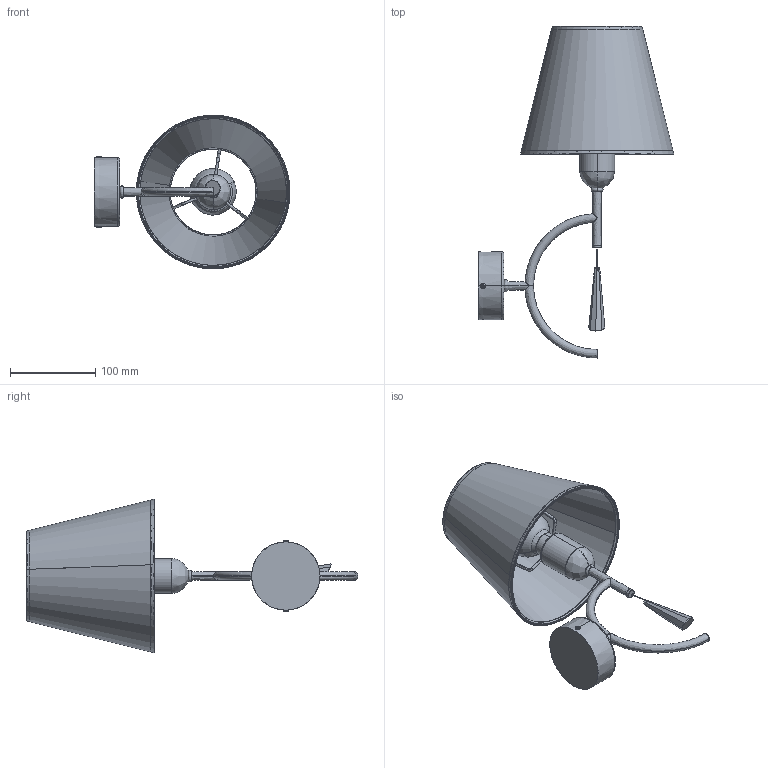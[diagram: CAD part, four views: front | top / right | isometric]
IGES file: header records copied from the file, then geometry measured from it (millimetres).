
Start section: SolidWorks IGES file using analytic representation for surfaces
Bounding box: 229.61 x 389.09 x 180.01 mm (x, y, z)
Surface area: 217596.6 mm2 (no closed solid volume)
Topology: 0 solids, 0 shells, 273 faces, 3842 edges, 3839 vertices
Faces by surface type: bspline 160, revolution 113
